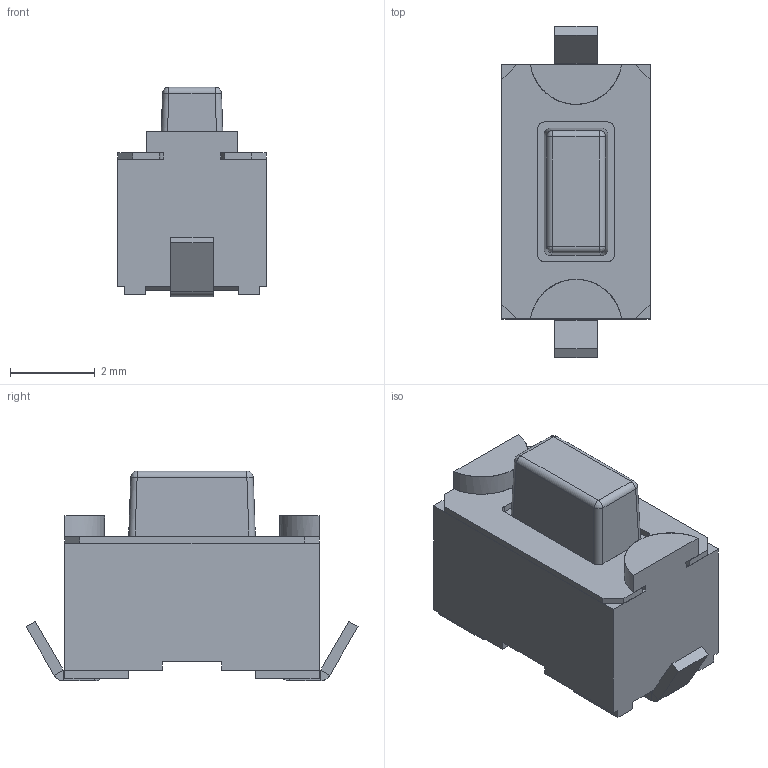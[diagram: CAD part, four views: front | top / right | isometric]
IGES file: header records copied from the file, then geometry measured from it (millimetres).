
Start section: SolidWorks IGES FILE using analytic representation for surfaces
Global section: file name: D:\待畫3D圖\TACT 3.5x6\DTS-32.IGS,41; native system: HSolidWorks 2004 by SolidWorks Corporation; preprocessor: Version 5.3; author: amao; date: 050322.102143; units: millimetre
Bounding box: 3.5 x 7.84 x 4.95 mm (x, y, z)
Surface area: 286 mm2 (no closed solid volume)
Topology: 0 solids, 0 shells, 389 faces, 2449 edges, 2443 vertices
Faces by surface type: bspline 315, revolution 74
